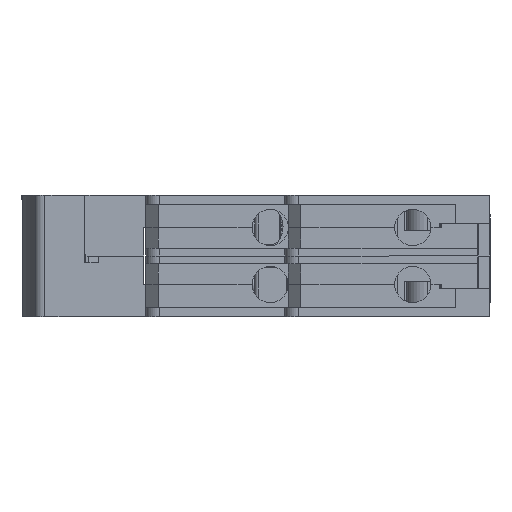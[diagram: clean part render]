
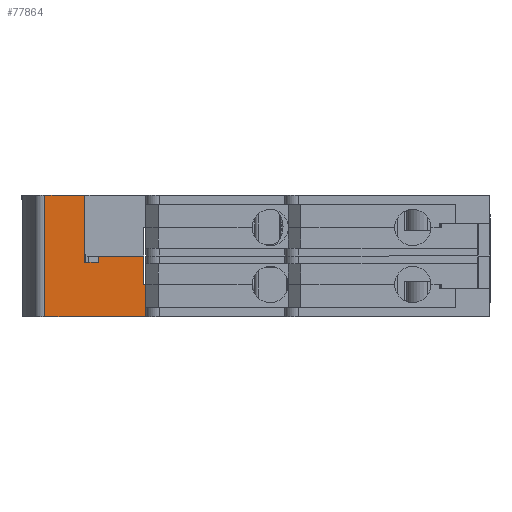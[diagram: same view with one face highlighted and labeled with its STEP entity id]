
A CAD part, left-side view. The second image highlights one B-rep face of the part: STEP entity #77864.
In plain terms, the highlighted planar face has unit normal (-1, 0, 0).
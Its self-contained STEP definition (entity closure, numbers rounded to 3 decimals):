
#1830 = EDGE_CURVE ( 'NONE', #1860, #1831, #40769, .T. ) ;
#1831 = VERTEX_POINT ( 'NONE', #40892 ) ;
#1860 = VERTEX_POINT ( 'NONE', #41194 ) ;
#2116 = VERTEX_POINT ( 'NONE', #43497 ) ;
#2228 = EDGE_CURVE ( 'NONE', #2273, #2116, #43819, .T. ) ;
#2273 = VERTEX_POINT ( 'NONE', #43948 ) ;
#3766 = CARTESIAN_POINT ( 'NONE',  ( -22.5, 22., -8.75 ) ) ;
#3857 = CARTESIAN_POINT ( 'NONE',  ( -22.5, 36.5, -8.75 ) ) ;
#3858 = DIRECTION ( 'NONE',  ( 0., -1., 0. ) ) ;
#3859 = VECTOR ( 'NONE', #3858, 1000. ) ;
#3860 = CARTESIAN_POINT ( 'NONE',  ( -22.5, 22., -8.75 ) ) ;
#3861 = LINE ( 'NONE', #3860, #3859 ) ;
#5924 = CARTESIAN_POINT ( 'NONE',  ( -22.5, 28.79, 0. ) ) ;
#5979 = CARTESIAN_POINT ( 'NONE',  ( -22.5, 22.3, 0. ) ) ;
#5980 = DIRECTION ( 'NONE',  ( 0., -1., 0. ) ) ;
#5981 = VECTOR ( 'NONE', #5980, 1000. ) ;
#5982 = CARTESIAN_POINT ( 'NONE',  ( -22.5, 37.49, 0. ) ) ;
#5983 = LINE ( 'NONE', #5982, #5981 ) ;
#40763 = DIRECTION ( 'NONE',  ( 0., -1., 0. ) ) ;
#40765 = VECTOR ( 'NONE', #40763, 1000. ) ;
#40768 = CARTESIAN_POINT ( 'NONE',  ( -22.5, 37.49, 8.75 ) ) ;
#40769 = LINE ( 'NONE', #40768, #40765 ) ;
#40892 = CARTESIAN_POINT ( 'NONE',  ( -22.5, 30.79, 8.75 ) ) ;
#41194 = CARTESIAN_POINT ( 'NONE',  ( -22.5, 36.5, 8.75 ) ) ;
#43497 = CARTESIAN_POINT ( 'NONE',  ( -22.5, 22., -4.1 ) ) ;
#43819 = LINE ( 'NONE', #43823, #43822 ) ;
#43821 = DIRECTION ( 'NONE',  ( 0., -1., 0. ) ) ;
#43822 = VECTOR ( 'NONE', #43821, 1000. ) ;
#43823 = CARTESIAN_POINT ( 'NONE',  ( -22.5, 22.3, -4.1 ) ) ;
#43948 = CARTESIAN_POINT ( 'NONE',  ( -22.5, 22.3, -4.1 ) ) ;
#48796 = DIRECTION ( 'NONE',  ( 0., 0., -1. ) ) ;
#48797 = VECTOR ( 'NONE', #48796, 1000. ) ;
#48798 = CARTESIAN_POINT ( 'NONE',  ( -22.5, 30.79, 8.75 ) ) ;
#48799 = LINE ( 'NONE', #48798, #48797 ) ;
#48801 = CARTESIAN_POINT ( 'NONE',  ( -22.5, 30.79, -0.9 ) ) ;
#48802 = DIRECTION ( 'NONE',  ( 0., -1., 0. ) ) ;
#48803 = VECTOR ( 'NONE', #48802, 1000. ) ;
#48804 = CARTESIAN_POINT ( 'NONE',  ( -22.5, 30.79, -0.9 ) ) ;
#48805 = LINE ( 'NONE', #48804, #48803 ) ;
#49619 = DIRECTION ( 'NONE',  ( 0., 0., -1. ) ) ;
#49620 = VECTOR ( 'NONE', #49619, 1000. ) ;
#49621 = CARTESIAN_POINT ( 'NONE',  ( -22.5, 22.3, 0. ) ) ;
#49622 = LINE ( 'NONE', #49621, #49620 ) ;
#49673 = CARTESIAN_POINT ( 'NONE',  ( -22.5, 28.79, -0.9 ) ) ;
#49674 = DIRECTION ( 'NONE',  ( 0., 0., 1. ) ) ;
#49675 = VECTOR ( 'NONE', #49674, 1000. ) ;
#49676 = CARTESIAN_POINT ( 'NONE',  ( -22.5, 28.79, -0.9 ) ) ;
#49677 = LINE ( 'NONE', #49676, #49675 ) ;
#50501 = DIRECTION ( 'NONE',  ( 0., 0., -1. ) ) ;
#50502 = VECTOR ( 'NONE', #50501, 1000. ) ;
#50503 = CARTESIAN_POINT ( 'NONE',  ( -22.5, 22., -7.45 ) ) ;
#50504 = LINE ( 'NONE', #50503, #50502 ) ;
#50505 = DIRECTION ( 'NONE',  ( 0., 0., -1. ) ) ;
#50506 = VECTOR ( 'NONE', #50505, 1000. ) ;
#50507 = CARTESIAN_POINT ( 'NONE',  ( -22.5, 36.5, -8.75 ) ) ;
#50508 = LINE ( 'NONE', #50507, #50506 ) ;
#50528 = CARTESIAN_POINT ( 'NONE',  ( -22.5, 22., -7.45 ) ) ;
#50529 = AXIS2_PLACEMENT_3D ( 'NONE', #50528, #50600, #50598 ) ;
#50530 = PLANE ( 'NONE',  #50529 ) ;
#50545 = FACE_OUTER_BOUND ( 'NONE', #77865, .T. ) ;
#50598 = DIRECTION ( 'NONE',  ( 0., 0., -1. ) ) ;
#50600 = DIRECTION ( 'NONE',  ( 1., 0., 0. ) ) ;
#75899 = VERTEX_POINT ( 'NONE', #3766 ) ;
#75901 = EDGE_CURVE ( 'NONE', #75902, #75899, #3861, .T. ) ;
#75902 = VERTEX_POINT ( 'NONE', #3857 ) ;
#76494 = VERTEX_POINT ( 'NONE', #5924 ) ;
#76496 = EDGE_CURVE ( 'NONE', #76494, #76498, #5983, .T. ) ;
#76498 = VERTEX_POINT ( 'NONE', #5979 ) ;
#77593 = ORIENTED_EDGE ( 'NONE', *, *, #77594, .F. ) ;
#77594 = EDGE_CURVE ( 'NONE', #77595, #77791, #48805, .T. ) ;
#77595 = VERTEX_POINT ( 'NONE', #48801 ) ;
#77596 = ORIENTED_EDGE ( 'NONE', *, *, #77597, .F. ) ;
#77597 = EDGE_CURVE ( 'NONE', #1831, #77595, #48799, .T. ) ;
#77769 = ORIENTED_EDGE ( 'NONE', *, *, #76496, .F. ) ;
#77770 = EDGE_CURVE ( 'NONE', #76498, #2273, #49622, .T. ) ;
#77788 = ORIENTED_EDGE ( 'NONE', *, *, #77789, .F. ) ;
#77789 = EDGE_CURVE ( 'NONE', #77791, #76494, #49677, .T. ) ;
#77791 = VERTEX_POINT ( 'NONE', #49673 ) ;
#77850 = ORIENTED_EDGE ( 'NONE', *, *, #77851, .T. ) ;
#77851 = EDGE_CURVE ( 'NONE', #1860, #75902, #50508, .T. ) ;
#77852 = ORIENTED_EDGE ( 'NONE', *, *, #75901, .T. ) ;
#77853 = ORIENTED_EDGE ( 'NONE', *, *, #77854, .F. ) ;
#77854 = EDGE_CURVE ( 'NONE', #2116, #75899, #50504, .T. ) ;
#77855 = ORIENTED_EDGE ( 'NONE', *, *, #2228, .F. ) ;
#77856 = ORIENTED_EDGE ( 'NONE', *, *, #77770, .F. ) ;
#77864 = ADVANCED_FACE ( 'NONE', ( #50545 ), #50530, .F. ) ;
#77865 = EDGE_LOOP ( 'NONE', ( #77866, #77850, #77852, #77853, #77855, #77856, #77769, #77788, #77593, #77596 ) ) ;
#77866 = ORIENTED_EDGE ( 'NONE', *, *, #1830, .F. ) ;
